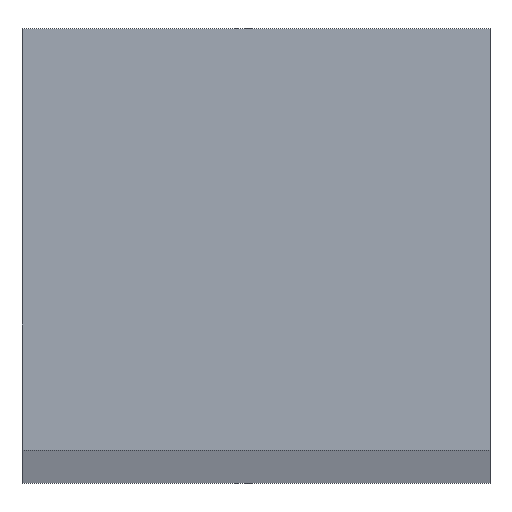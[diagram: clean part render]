
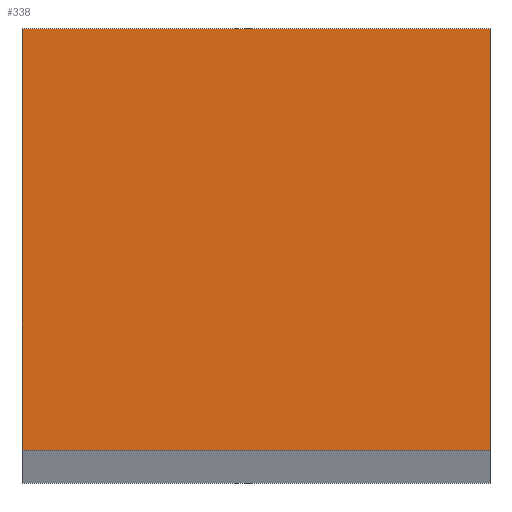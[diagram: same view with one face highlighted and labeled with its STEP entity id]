
A CAD part, top view. The second image highlights one B-rep face of the part: STEP entity #338.
In plain terms, the highlighted planar face has unit normal (0, 0, 1).
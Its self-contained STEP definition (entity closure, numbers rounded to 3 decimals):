
#24 = VERTEX_POINT('',#25);
#25 = CARTESIAN_POINT('',(153.,-24.,744.));
#32 = PLANE('',#33);
#33 = AXIS2_PLACEMENT_3D('',#34,#35,#36);
#34 = CARTESIAN_POINT('',(153.,-24.,-66.));
#35 = DIRECTION('',(1.,0.,0.));
#36 = DIRECTION('',(0.,0.,1.));
#44 = PLANE('',#45);
#45 = AXIS2_PLACEMENT_3D('',#46,#47,#48);
#46 = CARTESIAN_POINT('',(153.,-24.,-66.));
#47 = DIRECTION('',(0.,1.,0.));
#48 = DIRECTION('',(0.,0.,1.));
#85 = VERTEX_POINT('',#86);
#86 = CARTESIAN_POINT('',(153.,-6.,744.));
#100 = PLANE('',#101);
#101 = AXIS2_PLACEMENT_3D('',#102,#103,#104);
#102 = CARTESIAN_POINT('',(153.,-6.,-66.));
#103 = DIRECTION('',(0.,1.,0.));
#104 = DIRECTION('',(0.,0.,1.));
#112 = EDGE_CURVE('',#24,#85,#113,.T.);
#113 = SURFACE_CURVE('',#114,(#118,#125),.PCURVE_S1.);
#114 = LINE('',#115,#116);
#115 = CARTESIAN_POINT('',(153.,-24.,744.));
#116 = VECTOR('',#117,1.);
#117 = DIRECTION('',(0.,1.,0.));
#118 = PCURVE('',#32,#119);
#119 = DEFINITIONAL_REPRESENTATION('',(#120),#124);
#120 = LINE('',#121,#122);
#121 = CARTESIAN_POINT('',(810.,0.));
#122 = VECTOR('',#123,1.);
#123 = DIRECTION('',(0.,-1.));
#124 = ( GEOMETRIC_REPRESENTATION_CONTEXT(2) 
PARAMETRIC_REPRESENTATION_CONTEXT() REPRESENTATION_CONTEXT('2D SPACE',''
  ) );
#125 = PCURVE('',#126,#131);
#126 = PLANE('',#127);
#127 = AXIS2_PLACEMENT_3D('',#128,#129,#130);
#128 = CARTESIAN_POINT('',(153.,-24.,744.));
#129 = DIRECTION('',(0.,0.,1.));
#130 = DIRECTION('',(1.,0.,0.));
#131 = DEFINITIONAL_REPRESENTATION('',(#132),#136);
#132 = LINE('',#133,#134);
#133 = CARTESIAN_POINT('',(0.,0.));
#134 = VECTOR('',#135,1.);
#135 = DIRECTION('',(0.,1.));
#136 = ( GEOMETRIC_REPRESENTATION_CONTEXT(2) 
PARAMETRIC_REPRESENTATION_CONTEXT() REPRESENTATION_CONTEXT('2D SPACE',''
  ) );
#144 = VERTEX_POINT('',#145);
#145 = CARTESIAN_POINT('',(173.,-24.,744.));
#152 = PLANE('',#153);
#153 = AXIS2_PLACEMENT_3D('',#154,#155,#156);
#154 = CARTESIAN_POINT('',(173.,-24.,-66.));
#155 = DIRECTION('',(1.,0.,0.));
#156 = DIRECTION('',(0.,0.,1.));
#195 = VERTEX_POINT('',#196);
#196 = CARTESIAN_POINT('',(173.,-6.,744.));
#217 = EDGE_CURVE('',#144,#195,#218,.T.);
#218 = SURFACE_CURVE('',#219,(#223,#230),.PCURVE_S1.);
#219 = LINE('',#220,#221);
#220 = CARTESIAN_POINT('',(173.,-24.,744.));
#221 = VECTOR('',#222,1.);
#222 = DIRECTION('',(0.,1.,0.));
#223 = PCURVE('',#152,#224);
#224 = DEFINITIONAL_REPRESENTATION('',(#225),#229);
#225 = LINE('',#226,#227);
#226 = CARTESIAN_POINT('',(810.,0.));
#227 = VECTOR('',#228,1.);
#228 = DIRECTION('',(0.,-1.));
#229 = ( GEOMETRIC_REPRESENTATION_CONTEXT(2) 
PARAMETRIC_REPRESENTATION_CONTEXT() REPRESENTATION_CONTEXT('2D SPACE',''
  ) );
#230 = PCURVE('',#126,#231);
#231 = DEFINITIONAL_REPRESENTATION('',(#232),#236);
#232 = LINE('',#233,#234);
#233 = CARTESIAN_POINT('',(20.,0.));
#234 = VECTOR('',#235,1.);
#235 = DIRECTION('',(0.,1.));
#236 = ( GEOMETRIC_REPRESENTATION_CONTEXT(2) 
PARAMETRIC_REPRESENTATION_CONTEXT() REPRESENTATION_CONTEXT('2D SPACE',''
  ) );
#263 = EDGE_CURVE('',#24,#144,#264,.T.);
#264 = SURFACE_CURVE('',#265,(#269,#276),.PCURVE_S1.);
#265 = LINE('',#266,#267);
#266 = CARTESIAN_POINT('',(153.,-24.,744.));
#267 = VECTOR('',#268,1.);
#268 = DIRECTION('',(1.,0.,0.));
#269 = PCURVE('',#44,#270);
#270 = DEFINITIONAL_REPRESENTATION('',(#271),#275);
#271 = LINE('',#272,#273);
#272 = CARTESIAN_POINT('',(810.,0.));
#273 = VECTOR('',#274,1.);
#274 = DIRECTION('',(0.,1.));
#275 = ( GEOMETRIC_REPRESENTATION_CONTEXT(2) 
PARAMETRIC_REPRESENTATION_CONTEXT() REPRESENTATION_CONTEXT('2D SPACE',''
  ) );
#276 = PCURVE('',#126,#277);
#277 = DEFINITIONAL_REPRESENTATION('',(#278),#282);
#278 = LINE('',#279,#280);
#279 = CARTESIAN_POINT('',(0.,0.));
#280 = VECTOR('',#281,1.);
#281 = DIRECTION('',(1.,0.));
#282 = ( GEOMETRIC_REPRESENTATION_CONTEXT(2) 
PARAMETRIC_REPRESENTATION_CONTEXT() REPRESENTATION_CONTEXT('2D SPACE',''
  ) );
#310 = EDGE_CURVE('',#85,#195,#311,.T.);
#311 = SURFACE_CURVE('',#312,(#316,#323),.PCURVE_S1.);
#312 = LINE('',#313,#314);
#313 = CARTESIAN_POINT('',(153.,-6.,744.));
#314 = VECTOR('',#315,1.);
#315 = DIRECTION('',(1.,0.,0.));
#316 = PCURVE('',#100,#317);
#317 = DEFINITIONAL_REPRESENTATION('',(#318),#322);
#318 = LINE('',#319,#320);
#319 = CARTESIAN_POINT('',(810.,0.));
#320 = VECTOR('',#321,1.);
#321 = DIRECTION('',(0.,1.));
#322 = ( GEOMETRIC_REPRESENTATION_CONTEXT(2) 
PARAMETRIC_REPRESENTATION_CONTEXT() REPRESENTATION_CONTEXT('2D SPACE',''
  ) );
#323 = PCURVE('',#126,#324);
#324 = DEFINITIONAL_REPRESENTATION('',(#325),#329);
#325 = LINE('',#326,#327);
#326 = CARTESIAN_POINT('',(0.,18.));
#327 = VECTOR('',#328,1.);
#328 = DIRECTION('',(1.,0.));
#329 = ( GEOMETRIC_REPRESENTATION_CONTEXT(2) 
PARAMETRIC_REPRESENTATION_CONTEXT() REPRESENTATION_CONTEXT('2D SPACE',''
  ) );
#338 = ADVANCED_FACE('',(#339),#126,.T.);
#339 = FACE_BOUND('',#340,.T.);
#340 = EDGE_LOOP('',(#341,#342,#343,#344));
#341 = ORIENTED_EDGE('',*,*,#112,.F.);
#342 = ORIENTED_EDGE('',*,*,#263,.T.);
#343 = ORIENTED_EDGE('',*,*,#217,.T.);
#344 = ORIENTED_EDGE('',*,*,#310,.F.);
